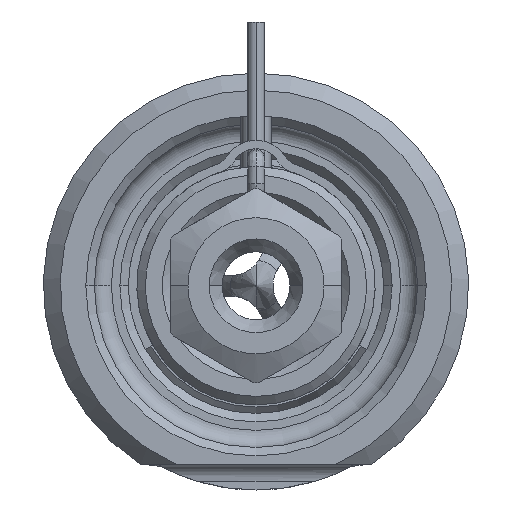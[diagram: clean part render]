
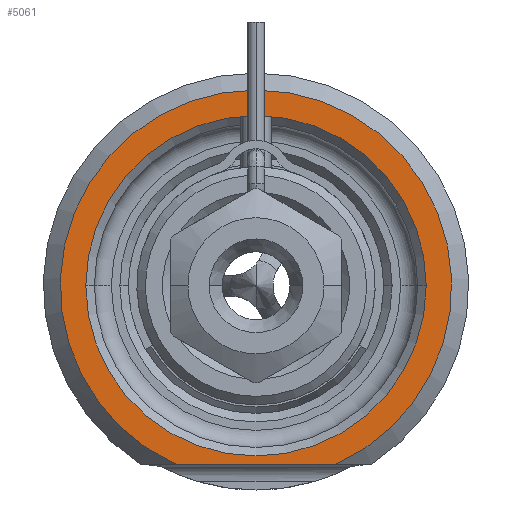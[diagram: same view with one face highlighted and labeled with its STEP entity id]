
A CAD part, front view. The second image highlights one B-rep face of the part: STEP entity #5061.
In plain terms, the highlighted planar face has unit normal (0, -1, 0).
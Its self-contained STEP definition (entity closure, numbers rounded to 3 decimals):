
#1245=CARTESIAN_POINT('',(0.,0.,0.));
#1246=DIRECTION('',(0.,-1.,0.));
#1247=DIRECTION('',(0.408,0.,-0.913));
#1248=AXIS2_PLACEMENT_3D('',#1245,#1246,#1247);
#1269=DIRECTION('',(1.,0.,0.));
#1270=VECTOR('',#1269,9.381);
#1271=CARTESIAN_POINT('',(-4.69,0.,-10.5));
#1272=LINE('',#1271,#1270);
#1273=CARTESIAN_POINT('',(0.,0.,0.));
#1274=DIRECTION('',(0.,1.,0.));
#1275=DIRECTION('',(-1.,0.,0.));
#1276=AXIS2_PLACEMENT_3D('',#1273,#1274,#1275);
#1278=CARTESIAN_POINT('',(0.,0.,0.));
#1279=DIRECTION('',(0.,1.,0.));
#1280=DIRECTION('',(1.,0.,0.));
#1281=AXIS2_PLACEMENT_3D('',#1278,#1279,#1280);
#3266=CARTESIAN_POINT('',(-10.,0.,0.));
#3267=CARTESIAN_POINT('',(10.,0.,0.));
#3268=VERTEX_POINT('',#3266);
#3269=VERTEX_POINT('',#3267);
#3310=CARTESIAN_POINT('',(-4.69,0.,-10.5));
#3311=CARTESIAN_POINT('',(4.69,0.,-10.5));
#3312=VERTEX_POINT('',#3310);
#3313=VERTEX_POINT('',#3311);
#5046=CARTESIAN_POINT('',(0.,0.,0.));
#5047=DIRECTION('',(0.,-1.,0.));
#5048=DIRECTION('',(1.,0.,0.));
#5049=AXIS2_PLACEMENT_3D('',#5046,#5047,#5048);
#5050=PLANE('',#5049);
#5051=ORIENTED_EDGE('',*,*,#4981,.F.);
#5052=ORIENTED_EDGE('',*,*,#5038,.F.);
#5053=EDGE_LOOP('',(#5051,#5052));
#5054=FACE_OUTER_BOUND('',#5053,.F.);
#5056=ORIENTED_EDGE('',*,*,#5055,.F.);
#5058=ORIENTED_EDGE('',*,*,#5057,.F.);
#5059=EDGE_LOOP('',(#5056,#5058));
#5060=FACE_BOUND('',#5059,.F.);
#5061=ADVANCED_FACE('',(#5054,#5060),#5050,.T.);
#1249=CIRCLE('',#1248,11.5);
#1277=CIRCLE('',#1276,10.);
#1282=CIRCLE('',#1281,10.);
#4981=EDGE_CURVE('',#3312,#3313,#1272,.T.);
#5038=EDGE_CURVE('',#3313,#3312,#1249,.T.);
#5055=EDGE_CURVE('',#3268,#3269,#1277,.T.);
#5057=EDGE_CURVE('',#3269,#3268,#1282,.T.);
